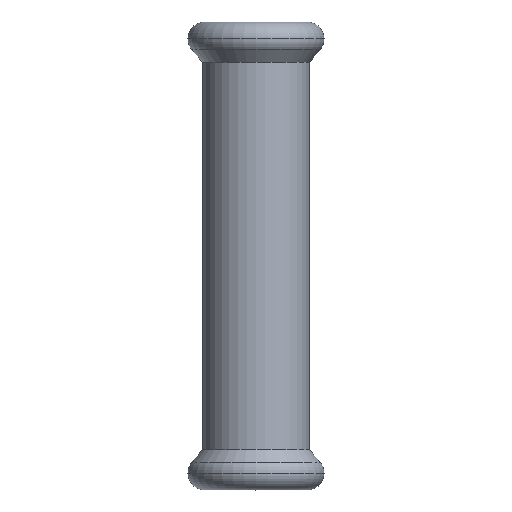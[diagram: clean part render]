
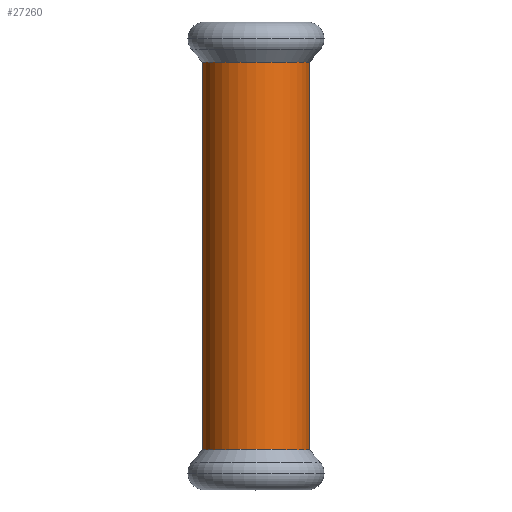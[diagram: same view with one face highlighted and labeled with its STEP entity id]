
A CAD part, top view. The second image highlights one B-rep face of the part: STEP entity #27260.
In plain terms, the highlighted cylindrical face has radius 9.125 mm (diameter 18.25 mm), a partial arc.
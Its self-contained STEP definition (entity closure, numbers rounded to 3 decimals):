
#4260=CARTESIAN_POINT('',(-87.068,54.512,0.));
#4270=VERTEX_POINT('',#4260);
#4450=CARTESIAN_POINT('',(-105.318,54.512,
0.));
#4460=VERTEX_POINT('',#4450);
#4490=CARTESIAN_POINT('',(-96.193,54.512,0.));
#4500=DIRECTION('',(0.,1.,0.));
#4510=DIRECTION('',(-1.,0.,0.));
#4520=AXIS2_PLACEMENT_3D('',#4490,#4500,#4510);
#4530=CIRCLE('',#4520,9.125);
#4590=CARTESIAN_POINT('',(-96.193,47.688,0.));
#4600=DIRECTION('',(0.,-1.,0.));
#4610=DIRECTION('',(-1.,0.,0.));
#4620=AXIS2_PLACEMENT_3D('',#4590,#4600,#4610);
#4630=CYLINDRICAL_SURFACE('',#4620,9.125);
#4640=CARTESIAN_POINT('',(-87.068,47.688,
0.));
#4650=DIRECTION('',(0.,-1.,0.));
#4660=VECTOR('',#4650,1.);
#4670=LINE('',#4640,#4660);
#4680=CARTESIAN_POINT('',(-87.068,-11.695,
0.));
#4690=VERTEX_POINT('',#4680);
#4700=EDGE_CURVE('',#4270,#4690,#4670,.T.);
#4730=CARTESIAN_POINT('',(-105.318,47.688,0.));
#4740=DIRECTION('',(0.,-1.,0.));
#4750=VECTOR('',#4740,1.);
#4760=LINE('',#4730,#4750);
#4770=CARTESIAN_POINT('',(-105.318,-11.695,0.));
#4780=VERTEX_POINT('',#4770);
#4790=EDGE_CURVE('',#4460,#4780,#4760,.T.);
#4810=CARTESIAN_POINT('',(-96.193,-11.695,0.));
#4820=DIRECTION('',(0.,-1.,0.));
#4830=DIRECTION('',(1.,0.,0.));
#4840=AXIS2_PLACEMENT_3D('',#4810,#4820,#4830);
#4850=CIRCLE('',#4840,9.125);
#26250=EDGE_CURVE('',#4690,#4780,#4850,.T.);
#27190=ORIENTED_EDGE('',*,*,#26250,.F.);
#27200=ORIENTED_EDGE('',*,*,#4790,.T.);
#27210=EDGE_CURVE('',#4460,#4270,#4530,.T.);
#27220=ORIENTED_EDGE('',*,*,#27210,.F.);
#27230=ORIENTED_EDGE('',*,*,#4700,.F.);
#27240=EDGE_LOOP('',(#27230,#27220,#27200,#27190));
#27250=FACE_OUTER_BOUND('',#27240,.T.);
#27260=ADVANCED_FACE('',(#27250),#4630,.T.);
